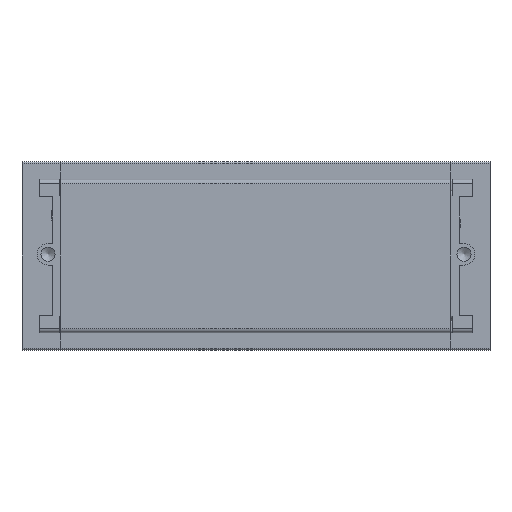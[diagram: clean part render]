
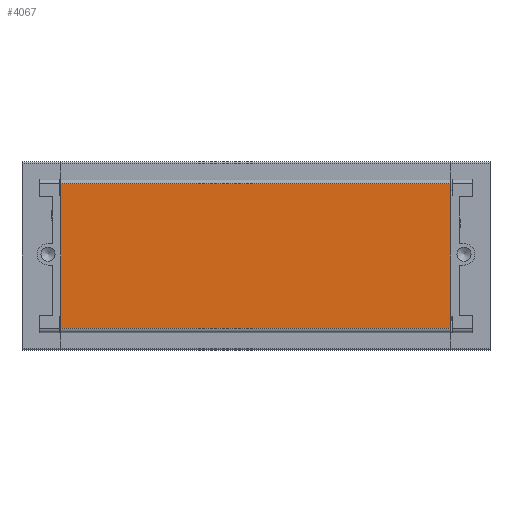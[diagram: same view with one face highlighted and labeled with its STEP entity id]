
A CAD part, front view. The second image highlights one B-rep face of the part: STEP entity #4067.
In plain terms, the highlighted planar face has unit normal (0, -1, 0).
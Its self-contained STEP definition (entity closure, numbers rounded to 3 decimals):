
#128=PLANE('',#4348);
#259=FACE_OUTER_BOUND('',#490,.T.);
#490=EDGE_LOOP('',(#2684,#2685,#2686,#2687));
#756=LINE('',#5987,#1156);
#757=LINE('',#5990,#1157);
#758=LINE('',#5992,#1158);
#759=LINE('',#5993,#1159);
#1156=VECTOR('',#4836,10.);
#1157=VECTOR('',#4839,10.);
#1158=VECTOR('',#4840,10.);
#1159=VECTOR('',#4841,10.);
#1686=VERTEX_POINT('',#5983);
#1687=VERTEX_POINT('',#5985);
#1688=VERTEX_POINT('',#5989);
#1689=VERTEX_POINT('',#5991);
#2076=EDGE_CURVE('',#1686,#1687,#756,.T.);
#2077=EDGE_CURVE('',#1688,#1686,#757,.T.);
#2078=EDGE_CURVE('',#1689,#1687,#758,.T.);
#2079=EDGE_CURVE('',#1688,#1689,#759,.T.);
#2684=ORIENTED_EDGE('',*,*,#2077,.T.);
#2685=ORIENTED_EDGE('',*,*,#2076,.T.);
#2686=ORIENTED_EDGE('',*,*,#2078,.F.);
#2687=ORIENTED_EDGE('',*,*,#2079,.F.);
#4067=ADVANCED_FACE('',(#259),#128,.T.);
#4348=AXIS2_PLACEMENT_3D('',#5988,#4837,#4838);
#4836=DIRECTION('',(1.,0.,0.));
#4837=DIRECTION('center_axis',(0.,-1.,0.));
#4838=DIRECTION('ref_axis',(0.,0.,-1.));
#4839=DIRECTION('',(0.,0.,-1.));
#4840=DIRECTION('',(0.,0.,-1.));
#4841=DIRECTION('',(1.,0.,0.));
#5983=CARTESIAN_POINT('',(0.,-25.597,-43.494));
#5985=CARTESIAN_POINT('',(90.,-25.597,-43.494));
#5987=CARTESIAN_POINT('',(0.,-25.597,-43.494));
#5988=CARTESIAN_POINT('Origin',(0.,-25.597,-10.094));
#5989=CARTESIAN_POINT('',(0.,-25.597,-10.094));
#5990=CARTESIAN_POINT('',(0.,-25.597,-10.094));
#5991=CARTESIAN_POINT('',(90.,-25.597,-10.094));
#5992=CARTESIAN_POINT('',(90.,-25.597,-10.094));
#5993=CARTESIAN_POINT('',(0.,-25.597,-10.094));
